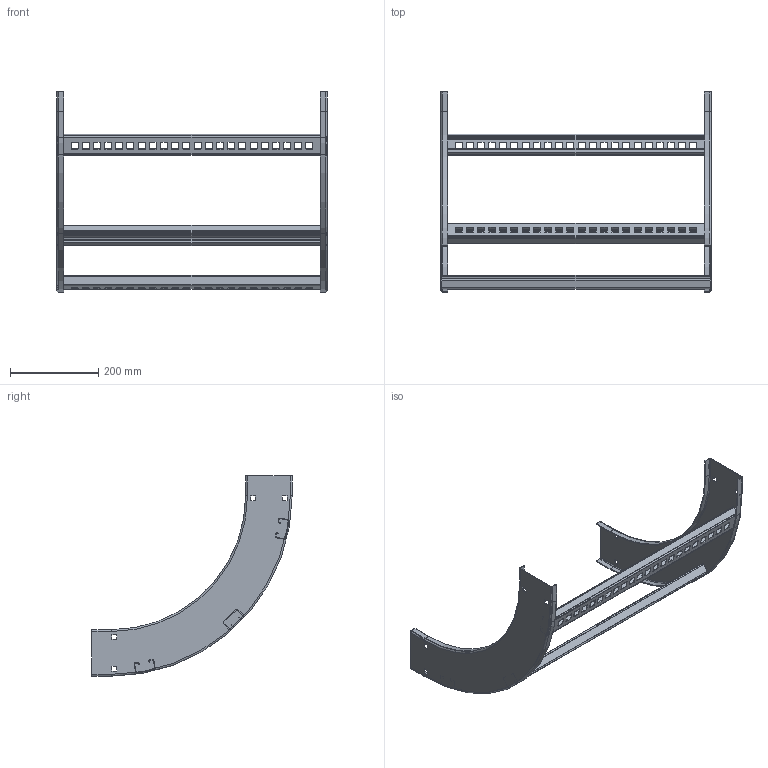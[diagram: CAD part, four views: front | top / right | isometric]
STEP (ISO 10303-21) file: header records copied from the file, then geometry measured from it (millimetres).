
FILE_DESCRIPTION((''),'2;1');
FILE_NAME('AUF424LVI9012_ASM','2010-01-28T',('erouzier'),(''),'PRO/ENGINEER BY PARAMETRIC TECHNOLOGY CORPORATION, 2008510','PRO/ENGINEER BY PARAMETRIC TECHNOLOGY CORPORATION, 2008510','');
FILE_SCHEMA(('CONFIG_CONTROL_DESIGN'));
Length unit declared in the file: inch
Products named in the file (3): CDS001416_4_90_12; CDS002159L24-P; AUF424LVI9012_ASM
Assembly tree (5 placements, depth 2):
  AUF424LVI9012_ASM
    CDS001416_4_90_12  x2
    CDS002159L24-P  x3
Bounding box: 613.71 x 454.84 x 454.84 mm (x, y, z)
Volume: 583078.9 mm3; surface area: 749163.3 mm2
Topology: 5 solids, 5 shells, 734 faces, 2108 edges, 1384 vertices
Faces by surface type: plane 405, cylinder 321, torus 8
Entity records: 8784 total; most frequent: DIRECTION 1518, CARTESIAN_POINT 1508, ORIENTED_EDGE 1496, EDGE_CURVE 748, VECTOR 522, LINE 522, AXIS2_PLACEMENT_3D 498, VERTEX_POINT 488
